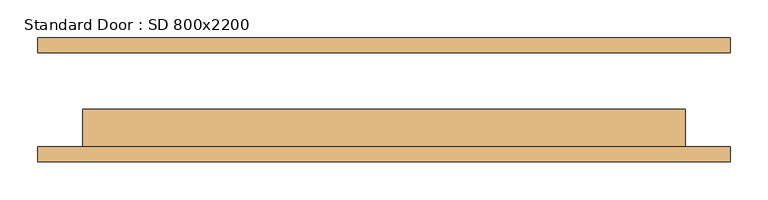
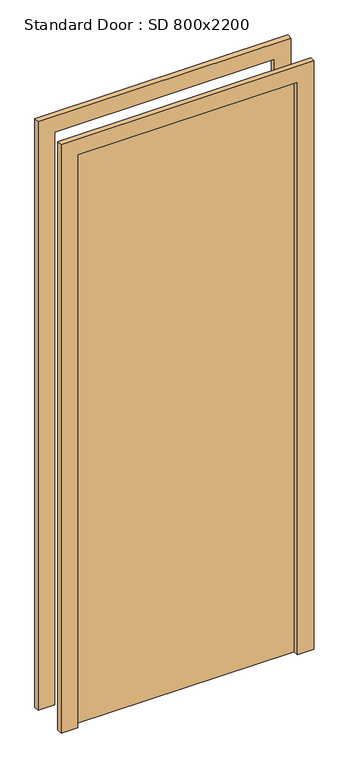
"""IFC4 building model written with IfcOpenShell, lengths in millimetres: door geometry, Standard Door : SD 800x2200."""

from ifc_helpers import new_model, si_unit, frame, origin, origin_with_axes, place, context, project, spatial, polyline, outline, extrude, source, transform, mapped, element, save


def standard_door_sd_800x2200_9843d5f1(model_context):
    return source(origin(), model_context, "Body", "SweptSolid", [
        extrude(outline(polyline([(2260.0, -460.0), (0.0, -460.0), (0.0, -400.0), (2200.0, -400.0), (2200.0, 400.0), (0.0, 400.0), (0.0, 460.0), (2260.0, 460.0), (2260.0, -460.0)])), frame((0.0, -82.5, 0.0), z_axis=(0.0, 1.0, 0.0), x_axis=(0.0, 0.0, 1.0)), (0.0, 0.0, 1.0), 20.0),
        extrude(outline(polyline([(2260.0, 460.0), (2260.0, -460.0), (0.0, -460.0), (0.0, -400.0), (2200.0, -400.0), (2200.0, 400.0), (0.0, 400.0), (0.0, 460.0), (2260.0, 460.0)])), frame((0.0, 62.5, 0.0), z_axis=(0.0, 1.0, 0.0), x_axis=(0.0, 0.0, 1.0)), (0.0, 0.0, 1.0), 20.0),
        extrude(outline(polyline([(400.0, -12.5), (400.0, -62.5), (-400.0, -62.5), (-400.0, -12.5), (400.0, -12.5)])), origin_with_axes(), (0.0, 0.0, 1.0), 2200.0),
    ])


if __name__ == "__main__":
    model = new_model("IFC4")
    model_context = context("Model", 3, world=origin())
    ifc_project = project(units=[si_unit("LENGTHUNIT", "METRE", prefix="MILLI")], contexts=[model_context])
    site = spatial("IfcSite", under=ifc_project)
    building = spatial("IfcBuilding", under=site)
    placement = place(None, origin())
    standard_door_sd_800x2200_shape = standard_door_sd_800x2200_9843d5f1(model_context)
    element("IfcDoor", 1, ObjectType="Standard Door : SD 800x2200", at=placement, inside=building, context=model_context, shape_type="MappedRepresentation", body=[
        mapped(standard_door_sd_800x2200_shape, transform((0.0, 0.0, 0.0), x_axis=(1.0, 0.0, 0.0), y_axis=(0.0, 1.0, 0.0), z_axis=(0.0, 0.0, 1.0))),
    ])
    save(model, "model.ifc")
